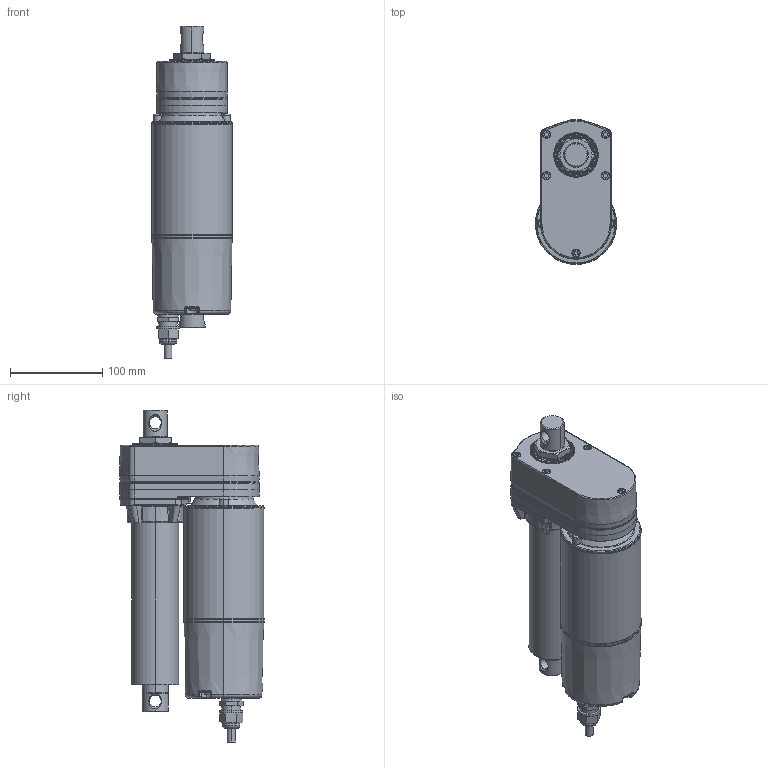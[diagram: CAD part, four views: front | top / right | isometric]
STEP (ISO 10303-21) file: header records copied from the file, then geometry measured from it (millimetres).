
FILE_DESCRIPTION((''),' ');
FILE_NAME('dszy5_std_102.stp',' ',('R. Lindner'),('MSW GmbH'),' ','ACIS 14.0',' ');
FILE_SCHEMA(('automotive_design'));
Length unit declared in the file: inch
Products named in the file (2): DSZY5-STD-102|NAUO1#1;°£®Æ-¦ùªø18; DSZY5-STD-102|NAUO2#2;°£®Æ-±ÛÂà7
Bounding box: 88 x 157.08 x 360.4 mm (x, y, z)
Volume: 2364090.1 mm3; surface area: 181827.7 mm2
Topology: 2 solids, 2 shells, 1068 faces, 2742 edges, 1704 vertices
Faces by surface type: plane 567, cylinder 215, torus 121, bspline 106, cone 53, sphere 6
Entity records: 44613 total; most frequent: CARTESIAN_POINT 12342, ORIENTED_EDGE 5456, DIRECTION 4554, EDGE_CURVE 2728, AXIS2_PLACEMENT_3D 1750, VERTEX_POINT 1704, EDGE_LOOP 1112, STYLED_ITEM 1070
